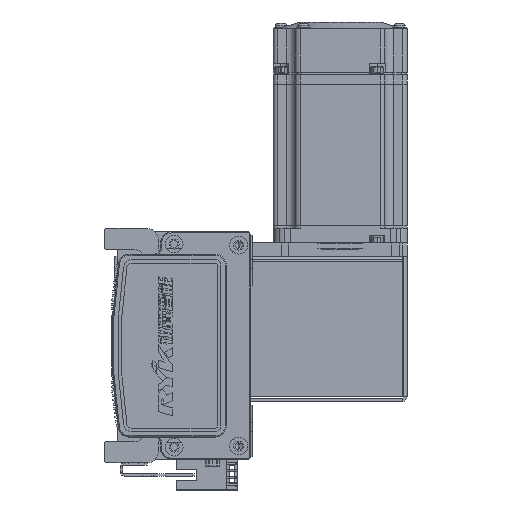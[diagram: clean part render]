
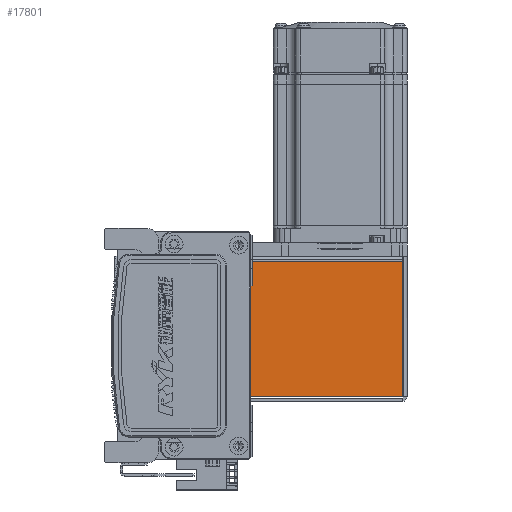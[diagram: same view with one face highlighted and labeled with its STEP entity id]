
A CAD part, left-side view. The second image highlights one B-rep face of the part: STEP entity #17801.
In plain terms, the highlighted planar face has unit normal (-1, 0, 0) as drawn and (0, 0, 1) by its records, which use the part's own axes.
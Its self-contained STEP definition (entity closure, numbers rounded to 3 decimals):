
#34 = CARTESIAN_POINT ( 'NONE',  ( 30.263, 0.737, 35. ) ) ;
#504 = ORIENTED_EDGE ( 'NONE', *, *, #23275, .F. ) ;
#1758 = EDGE_LOOP ( 'NONE', ( #4573, #48648, #35493, #504 ) ) ;
#3993 = CARTESIAN_POINT ( 'NONE',  ( -30.293, 0., 35. ) ) ;
#4573 = ORIENTED_EDGE ( 'NONE', *, *, #27683, .T. ) ;
#5456 = VECTOR ( 'NONE', #31350, 1000. ) ;
#11843 = CARTESIAN_POINT ( 'NONE',  ( -30.293, 0.737, 35. ) ) ;
#14819 = CARTESIAN_POINT ( 'NONE',  ( 0., 72.5, 35. ) ) ;
#14927 = PLANE ( 'NONE',  #47684 ) ;
#15423 = DIRECTION ( 'NONE',  ( 0., 1., 0. ) ) ;
#16539 = LINE ( 'NONE', #3993, #26218 ) ;
#17801 = ADVANCED_FACE ( 'NONE', ( #32666 ), #14927, .F. ) ;
#19439 = EDGE_CURVE ( 'NONE', #22128, #46511, #16539, .T. ) ;
#20592 = DIRECTION ( 'NONE',  ( 0., 0., -1. ) ) ;
#21965 = VECTOR ( 'NONE', #35363, 1000. ) ;
#22128 = VERTEX_POINT ( 'NONE', #11843 ) ;
#23275 = EDGE_CURVE ( 'NONE', #28852, #22128, #27275, .T. ) ;
#24255 = CARTESIAN_POINT ( 'NONE',  ( -32.5, 0.737, 35. ) ) ;
#26218 = VECTOR ( 'NONE', #15423, 1000. ) ;
#27275 = LINE ( 'NONE', #24255, #21965 ) ;
#27683 = EDGE_CURVE ( 'NONE', #28852, #44215, #46251, .T. ) ;
#28852 = VERTEX_POINT ( 'NONE', #34 ) ;
#31179 = VECTOR ( 'NONE', #69678, 1000. ) ;
#31350 = DIRECTION ( 'NONE',  ( -1., 0., 0. ) ) ;
#32666 = FACE_OUTER_BOUND ( 'NONE', #1758, .T. ) ;
#35363 = DIRECTION ( 'NONE',  ( -1., 0., 0. ) ) ;
#35493 = ORIENTED_EDGE ( 'NONE', *, *, #19439, .F. ) ;
#44215 = VERTEX_POINT ( 'NONE', #64668 ) ;
#46251 = LINE ( 'NONE', #52516, #31179 ) ;
#46440 = EDGE_CURVE ( 'NONE', #44215, #46511, #63027, .T. ) ;
#46511 = VERTEX_POINT ( 'NONE', #59880 ) ;
#47684 = AXIS2_PLACEMENT_3D ( 'NONE', #49329, #20592, #60238 ) ;
#48648 = ORIENTED_EDGE ( 'NONE', *, *, #46440, .T. ) ;
#49329 = CARTESIAN_POINT ( 'NONE',  ( 0., 0., 35. ) ) ;
#52516 = CARTESIAN_POINT ( 'NONE',  ( 30.263, 0.737, 35. ) ) ;
#59880 = CARTESIAN_POINT ( 'NONE',  ( -30.293, 72.5, 35. ) ) ;
#60238 = DIRECTION ( 'NONE',  ( -1., 0., 0. ) ) ;
#63027 = LINE ( 'NONE', #14819, #5456 ) ;
#64668 = CARTESIAN_POINT ( 'NONE',  ( 30.263, 72.5, 35. ) ) ;
#69678 = DIRECTION ( 'NONE',  ( 0., 1., 0. ) ) ;
